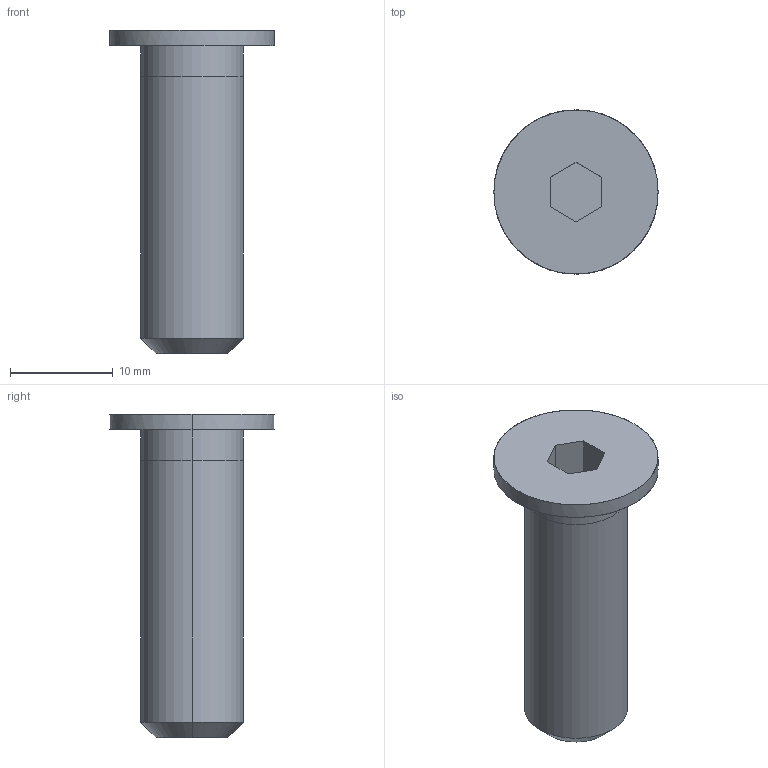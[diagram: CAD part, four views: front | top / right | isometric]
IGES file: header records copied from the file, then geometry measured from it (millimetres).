
Global section: file name: E:\UnigraphicsGraphicData\MISUMI_PRESS-PARTS\IGES\3d_cbss10-30_03494_r00.igs; native system: NX V5.0; preprocessor: UGS NX IGES V5.0; author: MISUMI; date: 20110105.160201; units: millimetre
Bounding box: 16 x 16 x 31.5 mm (x, y, z)
Surface area: 1477.3 mm2 (no closed solid volume)
Topology: 0 solids, 0 shells, 18 faces, 100 edges, 100 vertices
Faces by surface type: bspline 18
